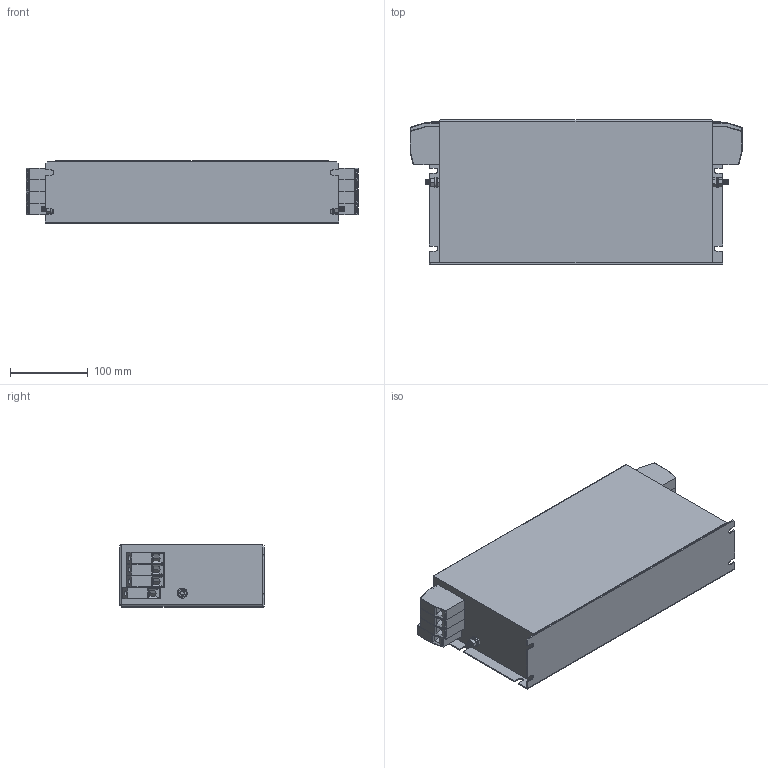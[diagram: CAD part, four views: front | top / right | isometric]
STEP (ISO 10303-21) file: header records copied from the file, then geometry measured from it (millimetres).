
FILE_DESCRIPTION (( 'STEP AP203' ), '1' );
FILE_NAME ('NF-K-4-75.STEP', '2020-12-10T15:25:53', ( '' ), ( '' ), 'SwSTEP 2.0', 'SolidWorks 2017', '' );
FILE_SCHEMA (( 'CONFIG_CONTROL_DESIGN' ));
Length unit declared in the file: millimetre
Products named in the file (7): NF-K-4-75; M6x16 Earth post; hex nut style 1_am_B18.2.4.1M - Hex nut, Style 1,  M6 x 1 --D-N; T4 case; flat washer narrow_am_B18.22M - Plain washer, 6 mm, narrow; hex screw_am_B18.6.7M - M6 x 1.0 x 16 Indented HHMS --16S; HDFK-25
Assembly tree (15 placements, depth 3):
  NF-K-4-75
    T4 case
    M6x16 Earth post  x2
      flat washer narrow_am_B18.22M - Plain washer, 6 mm, narrow
      hex nut style 1_am_B18.2.4.1M - Hex nut, Style 1,  M6 x 1 --D-N
      hex screw_am_B18.6.7M - M6 x 1.0 x 16 Indented HHMS --16S
    HDFK-25  x8
Bounding box: 426.01 x 185 x 80 mm (x, y, z)
Volume: 5200303.6 mm3; surface area: 377376.2 mm2
Topology: 17 solids, 17 shells, 976 faces, 2328 edges, 1436 vertices
Faces by surface type: plane 623, cone 184, cylinder 167, sphere 2
Entity records: 10330 total; most frequent: CARTESIAN_POINT 1769, DIRECTION 1653, ORIENTED_EDGE 1546, EDGE_CURVE 773, AXIS2_PLACEMENT_3D 592, VERTEX_POINT 484, VECTOR 469, LINE 469
